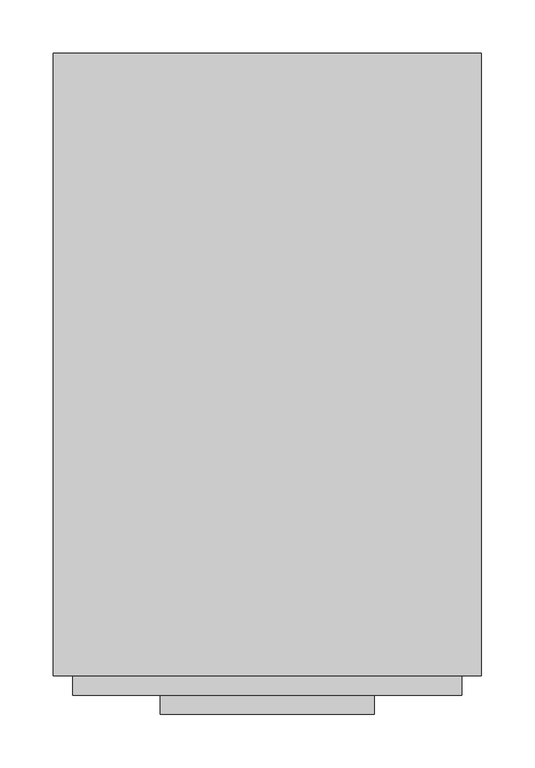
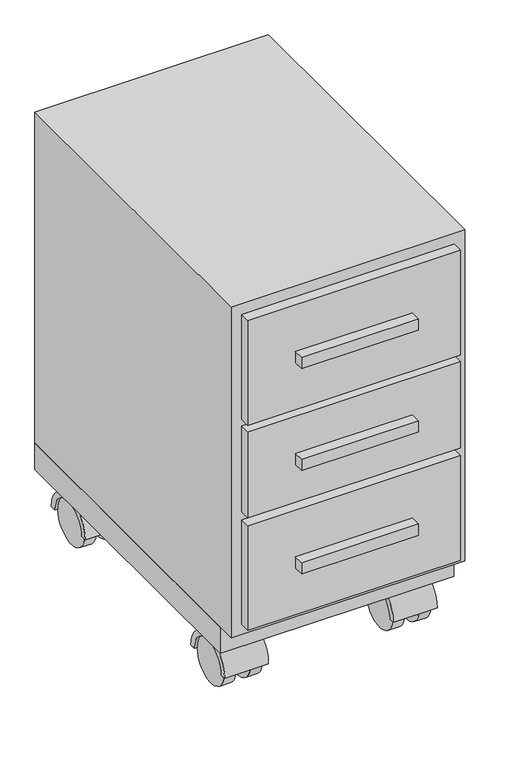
"""IFC4 building model written with IfcOpenShell, lengths in millimetres: proxy geometry, BIMHealth-400x600mm_Mobile_Under_Counter_Drawer-LOD2A-v1 : BIMHealth-400x600mm_Mobile_Under_Counter_Drawer-LOD2A-v1."""

import ifcopenshell
import ifcopenshell.guid

model = None  # the IFC model being written
_history = None  # IfcOwnerHistory: only IFC2X3 demands one
_inside = {}  # id of a spatial element -> (the spatial element, [elements in it])
_under = {}  # id of a project, library or spatial element -> (it, [spatial elements below it])
_declared = {}  # id of a project -> (the project, [libraries it declares])
_typed = {}  # id of a type object -> (the type object, [elements of that type])
_made_of = {}  # id of a material, layer set ... -> (it, [elements and type objects made of it])


def new_model(schema):
    """Start an empty IFC model of exactly this schema.

    Asked for "IFC4X3", IfcOpenShell would pick the latest addendum, in which some entities
    have other attributes; the version numbers below select the first issue.
    IFC2X3 requires an IfcOwnerHistory on every rooted entity: one is made here for all.
    """
    global model, _history
    if schema == "IFC4X3":
        model = ifcopenshell.file(schema_version=(4, 3, 0, 0))
    else:
        model = ifcopenshell.file(schema=schema)
    _inside.clear()
    _under.clear()
    _declared.clear()
    _typed.clear()
    _made_of.clear()
    _history = None
    if model.schema == "IFC2X3":
        org = make("IfcOrganization", Name="unknown")
        user = make(
            "IfcPersonAndOrganization",
            ThePerson=make("IfcPerson", FamilyName="unknown"),
            TheOrganization=org,
        )
        app = make(
            "IfcApplication",
            ApplicationDeveloper=org,
            Version="unknown",
            ApplicationFullName="unknown",
            ApplicationIdentifier="unknown",
        )
        _history = make(
            "IfcOwnerHistory",
            OwningUser=user,
            OwningApplication=app,
            ChangeAction="ADDED",
            CreationDate=0,
        )
    return model


def make(cls, **values):
    """One entity of the class cls with the attributes given. An attribute that is None is left unset."""
    return model.create_entity(
        cls, **{name: value for name, value in values.items() if value is not None}
    )


def rooted(cls, **values):
    """An entity with a GlobalId (a new one), such as an element, a storey or a relation."""
    return make(cls, GlobalId=ifcopenshell.guid.new(), OwnerHistory=_history, **values)


def si_unit(unit_type, name, prefix=None):
    """IfcSIUnit, for example si_unit("LENGTHUNIT", "METRE", prefix="MILLI")."""
    return make("IfcSIUnit", UnitType=unit_type, Prefix=prefix, Name=name)


def assignment(units):
    """IfcUnitAssignment: the units of a project."""
    return None if units is None else make("IfcUnitAssignment", Units=units)


def point(xyz):
    """IfcCartesianPoint."""
    return None if xyz is None else make("IfcCartesianPoint", Coordinates=xyz)


def direction(xyz):
    """IfcDirection."""
    return None if xyz is None else make("IfcDirection", DirectionRatios=xyz)


def frame(location, z_axis=None, x_axis=None):
    """IfcAxis2Placement3D, a coordinate frame: its origin and axes. An axis left out is left unset."""
    return make(
        "IfcAxis2Placement3D",
        Location=point(location),
        Axis=direction(z_axis),
        RefDirection=direction(x_axis),
    )


def frame_2d(location, x_axis=None):
    """IfcAxis2Placement2D, a coordinate frame in the plane: its origin and x axis."""
    return make(
        "IfcAxis2Placement2D", Location=point(location), RefDirection=direction(x_axis)
    )


def origin():
    """The frame at (0, 0, 0) with its axes left unset."""
    return frame((0.0, 0.0, 0.0))


def place(relative_to, where):
    """IfcLocalPlacement: puts the frame where relative to a parent placement (None: the world)."""
    return make(
        "IfcLocalPlacement", PlacementRelTo=relative_to, RelativePlacement=where
    )


def context(
    kind, dimensions, precision=None, world=None, true_north=None, identifier=None
):
    """IfcGeometricRepresentationContext, for example the 3D "Model" context."""
    return make(
        "IfcGeometricRepresentationContext",
        ContextIdentifier=identifier,
        ContextType=kind,
        CoordinateSpaceDimension=dimensions,
        Precision=precision,
        WorldCoordinateSystem=world,
        TrueNorth=true_north,
    )


def project(units=None, contexts=None):
    """IfcProject with its units and contexts."""
    return rooted(
        "IfcProject",
        Name="project",
        RepresentationContexts=contexts,
        UnitsInContext=assignment(units),
    )


def spatial(cls, under=None, at=None, **own):
    """A site, building, storey or space (cls), placed at a placement, below another one or the project."""
    s = rooted(cls, ObjectPlacement=at, **own)
    if under is not None:
        _under.setdefault(under.id(), (under, []))[1].append(s)
    return s


def polyline(points):
    """IfcPolyline through the points."""
    return make("IfcPolyline", Points=[point(p) for p in points])


def circle_curve(where, radius):
    """IfcCircle in the frame where."""
    return make("IfcCircle", Position=where, Radius=radius)


def trimmed(basis, trim1, trim2, sense, master):
    """IfcTrimmedCurve: the piece of a basis curve between two trims."""
    return make(
        "IfcTrimmedCurve",
        BasisCurve=basis,
        Trim1=trim1,
        Trim2=trim2,
        SenseAgreement=sense,
        MasterRepresentation=master,
    )


def segment(curve, same_sense, transition):
    """IfcCompositeCurveSegment."""
    return make(
        "IfcCompositeCurveSegment",
        Transition=transition,
        SameSense=same_sense,
        ParentCurve=curve,
    )


def composite_curve(segments, self_intersect=None):
    """IfcCompositeCurve: segments joined end to end."""
    return make("IfcCompositeCurve", Segments=segments, SelfIntersect=self_intersect)


def outline(outer, holes=None, kind="AREA"):
    """IfcArbitraryClosedProfileDef: a profile drawn as a closed curve; with holes, ...WithVoids."""
    if holes is None:
        return make("IfcArbitraryClosedProfileDef", ProfileType=kind, OuterCurve=outer)
    return make(
        "IfcArbitraryProfileDefWithVoids",
        ProfileType=kind,
        OuterCurve=outer,
        InnerCurves=holes,
    )


def extrude(swept, where, along, depth):
    """IfcExtrudedAreaSolid: the profile swept, set in the frame where, extruded along a direction by depth."""
    return make(
        "IfcExtrudedAreaSolid",
        SweptArea=swept,
        Position=where,
        ExtrudedDirection=direction(along),
        Depth=depth,
    )


def faces_of(points, faces, orient=None, outer=None):
    """IfcFace entities. A face is a list of loops; a loop is a list of indices into points, from 0.

    orient and outer hold one flag for each loop. By default every Orientation is true, the
    first loop of a face is its IfcFaceOuterBound and the others are IfcFaceBound.
    """
    made = []
    for i, loops in enumerate(faces):
        bounds = []
        for j, loop in enumerate(loops):
            is_outer = j == 0 if outer is None else outer[i][j]
            bounds.append(
                make(
                    "IfcFaceOuterBound" if is_outer else "IfcFaceBound",
                    Bound=make("IfcPolyLoop", Polygon=[points[k] for k in loop]),
                    Orientation=True if orient is None else orient[i][j],
                )
            )
        made.append(make("IfcFace", Bounds=bounds))
    return made


def faceted_brep(points, faces, orient=None, outer=None, voids=None):
    """IfcFacetedBrep: a solid bounded by flat faces; with voids (closed shells), ...WithVoids."""
    shared = [point(p) for p in points]
    hull = make("IfcClosedShell", CfsFaces=faces_of(shared, faces, orient, outer))
    if voids is None:
        return make("IfcFacetedBrep", Outer=hull)
    return make(
        "IfcFacetedBrepWithVoids",
        Outer=hull,
        Voids=[
            make(cls, CfsFaces=faces_of(shared, fs, o, b)) for cls, fs, o, b in voids
        ],
    )


def shape(context_of_items, identifier, shape_type, items):
    """IfcShapeRepresentation: the items that make up one representation, for example the "Body"."""
    return make(
        "IfcShapeRepresentation",
        ContextOfItems=context_of_items,
        RepresentationIdentifier=identifier,
        RepresentationType=shape_type,
        Items=items,
    )


def source(mapping_origin, context_of_items, identifier, shape_type, items):
    """IfcRepresentationMap: a shape defined once, which mapped items show again and again."""
    return make(
        "IfcRepresentationMap",
        MappingOrigin=mapping_origin,
        MappedRepresentation=shape(context_of_items, identifier, shape_type, items),
    )


def transform(
    local_origin,
    x_axis=None,
    y_axis=None,
    z_axis=None,
    scale=None,
    scale2=None,
    scale3=None,
    uniform=True,
):
    """IfcCartesianTransformationOperator3D, or its non-uniform kind. x_axis, y_axis, z_axis: its Axis1, 2, 3."""
    if uniform:
        return make(
            "IfcCartesianTransformationOperator3D",
            Axis1=direction(x_axis),
            Axis2=direction(y_axis),
            LocalOrigin=point(local_origin),
            Scale=scale,
            Axis3=direction(z_axis),
        )
    return make(
        "IfcCartesianTransformationOperator3DnonUniform",
        Axis1=direction(x_axis),
        Axis2=direction(y_axis),
        LocalOrigin=point(local_origin),
        Scale=scale,
        Axis3=direction(z_axis),
        Scale2=scale2,
        Scale3=scale3,
    )


def mapped(mapping_source, mapping_target):
    """IfcMappedItem: shows the shape of a source again, moved by a transform."""
    return make(
        "IfcMappedItem", MappingSource=mapping_source, MappingTarget=mapping_target
    )


def made_of(thing, what):
    """Note that an element or type object is made of a material, layer set ...; save() writes the relation."""
    if what is not None:
        _made_of.setdefault(what.id(), (what, []))[1].append(thing)
    return thing


def element(
    cls,
    number,
    at=None,
    inside=None,
    cuts=None,
    type_object=None,
    material=None,
    context=None,
    identifier="Body",
    shape_type=None,
    held_by="IfcProductDefinitionShape",
    body=None,
    shapes=None,
    **own,
):
    """One element of the class cls, such as IfcWall. Its Tag is "e" and its number.

    at: its placement. inside: the storey or other place that contains it. cuts: it is an
    opening in that element (IfcRelVoidsElement). A single representation is given by context,
    identifier, shape_type and body (its items); several are given by shapes. held_by: the class
    of the entity that holds the representations. save() writes the other relations.
    """
    e = rooted(cls, Tag="e%d" % number, ObjectPlacement=at, **own)
    if body is not None:
        shapes = [shape(context, identifier, shape_type, body)]
    if shapes is not None:
        e.Representation = make(held_by, Representations=shapes)
    if inside is not None:
        _inside.setdefault(inside.id(), (inside, []))[1].append(e)
    if cuts is not None:
        rooted(
            "IfcRelVoidsElement", RelatingBuildingElement=cuts, RelatedOpeningElement=e
        )
    if type_object is not None:
        _typed.setdefault(type_object.id(), (type_object, []))[1].append(e)
    return made_of(e, material)


def aggregate(whole, parts):
    """IfcRelAggregates: a whole, such as a stair, and the parts it consists of."""
    return rooted("IfcRelAggregates", RelatingObject=whole, RelatedObjects=parts)


def save(model, path):
    """Write the relations noted so far, then the file.

    IfcRelAggregates (storeys below a building ...), IfcRelContainedInSpatialStructure (elements
    in a storey), IfcRelDefinesByType, IfcRelAssociatesMaterial and IfcRelDeclares: one each for
    every whole, place, type object, material and project.
    """
    for whole, parts in _under.values():
        aggregate(whole, parts)
    for where, things in _inside.values():
        rooted(
            "IfcRelContainedInSpatialStructure",
            RelatedElements=things,
            RelatingStructure=where,
        )
    for kind, things in _typed.values():
        rooted("IfcRelDefinesByType", RelatedObjects=things, RelatingType=kind)
    for what, things in _made_of.values():
        rooted("IfcRelAssociatesMaterial", RelatedObjects=things, RelatingMaterial=what)
    for by, libraries in _declared.values():
        rooted("IfcRelDeclares", RelatingContext=by, RelatedDefinitions=libraries)
    model.write(path)


def generic_models_b4fb940c(model_context):
    return source(origin(), model_context, "Body", "SolidModel", [
        extrude(outline(composite_curve([segment(trimmed(circle_curve(frame_2d((344.2063616, -68.0)), 7.5), [point((336.7063616, -68.0))], [point((351.7063616, -68.0))], False, "CARTESIAN"), True, "CONTINUOUS"), segment(trimmed(circle_curve(frame_2d((344.2063616, -68.0)), 7.5), [point((351.7063616, -68.0))], [point((336.7063616, -68.0))], False, "CARTESIAN"), True, "CONTINUOUS")], self_intersect=False)), frame((0.0, 0.0, 62.2775188), z_axis=(0.0, 0.0, 1.0), x_axis=(1.0, 0.0, 0.0)), (0.0, 0.0, 1.0), 20.0),
        extrude(outline(composite_curve([segment(polyline([(-97.2564005, 62.2775188), (-38.7435995, 62.2775188), (-38.7435995, 40.5470471)]), True, "CONTINUOUS"), segment(trimmed(circle_curve(frame_2d((-68.0, 0.0)), 50.0), [point((-38.7435995, 40.5470471))], [point((-97.2564005, 40.5470471))], True, "CARTESIAN"), True, "CONTINUOUS"), segment(polyline([(-97.2564005, 40.5470471), (-97.2564005, 62.2775188)]), True, "CONTINUOUS")], self_intersect=False)), frame((321.5806979, 0.0, 0.0), z_axis=(1.0, 0.0, 0.0), x_axis=(0.0, 1.0, 0.0)), (0.0, 0.0, 1.0), 45.2513275),
        extrude(outline(composite_curve([segment(polyline([(-108.0, 0.0), (-118.0, 0.0)]), True, "CONTINUOUS"), segment(trimmed(circle_curve(frame_2d((-68.0, 0.0)), 50.0), [point((-118.0, 0.0))], [point((-18.0, 0.0))], False, "CARTESIAN"), True, "CONTINUOUS"), segment(polyline([(-18.0, 0.0), (-28.0, 0.0)]), True, "CONTINUOUS"), segment(trimmed(circle_curve(frame_2d((-68.0, 0.0)), 40.0), [point((-28.0, 0.0))], [point((-108.0, 0.0))], True, "CARTESIAN"), True, "CONTINUOUS")], self_intersect=False)), frame((307.0, 0.0, 0.0), z_axis=(1.0, 0.0, 0.0), x_axis=(0.0, 1.0, 0.0)), (0.0, 0.0, 1.0), 75.0),
        extrude(outline(composite_curve([segment(trimmed(circle_curve(frame_2d((-68.0, 0.0)), 40.0), [point((-28.0, 0.0))], [point((-108.0, 0.0))], False, "CARTESIAN"), True, "CONTINUOUS"), segment(trimmed(circle_curve(frame_2d((-68.0, 0.0)), 40.0), [point((-108.0, 0.0))], [point((-28.0, 0.0))], False, "CARTESIAN"), True, "CONTINUOUS")], self_intersect=False)), frame((357.0, 0.0, 0.0), z_axis=(1.0, 0.0, 0.0), x_axis=(0.0, 1.0, 0.0)), (0.0, 0.0, 1.0), 20.0),
        extrude(outline(composite_curve([segment(trimmed(circle_curve(frame_2d((-68.0, 0.0)), 40.0), [point((-28.0, 0.0))], [point((-108.0, 0.0))], False, "CARTESIAN"), True, "CONTINUOUS"), segment(trimmed(circle_curve(frame_2d((-68.0, 0.0)), 40.0), [point((-108.0, 0.0))], [point((-28.0, 0.0))], False, "CARTESIAN"), True, "CONTINUOUS")], self_intersect=False)), frame((312.0, 0.0, 0.0), z_axis=(1.0, 0.0, 0.0), x_axis=(0.0, 1.0, 0.0)), (0.0, 0.0, 1.0), 20.0),
        extrude(outline(composite_curve([segment(trimmed(circle_curve(frame_2d((55.2063616, -68.0)), 7.5), [point((47.7063616, -68.0))], [point((62.7063616, -68.0))], False, "CARTESIAN"), True, "CONTINUOUS"), segment(trimmed(circle_curve(frame_2d((55.2063616, -68.0)), 7.5), [point((62.7063616, -68.0))], [point((47.7063616, -68.0))], False, "CARTESIAN"), True, "CONTINUOUS")], self_intersect=False)), frame((0.0, 0.0, 62.2775188), z_axis=(0.0, 0.0, 1.0), x_axis=(1.0, 0.0, 0.0)), (0.0, 0.0, 1.0), 20.0),
        extrude(outline(composite_curve([segment(polyline([(-97.2564005, 62.2775188), (-38.7435995, 62.2775188), (-38.7435995, 40.5470471)]), True, "CONTINUOUS"), segment(trimmed(circle_curve(frame_2d((-68.0, 0.0)), 50.0), [point((-38.7435995, 40.5470471))], [point((-97.2564005, 40.5470471))], True, "CARTESIAN"), True, "CONTINUOUS"), segment(polyline([(-97.2564005, 40.5470471), (-97.2564005, 62.2775188)]), True, "CONTINUOUS")], self_intersect=False)), frame((32.5806979, 0.0, 0.0), z_axis=(1.0, 0.0, 0.0), x_axis=(0.0, 1.0, 0.0)), (0.0, 0.0, 1.0), 45.2513275),
        extrude(outline(composite_curve([segment(polyline([(-108.0, 0.0), (-118.0, 0.0)]), True, "CONTINUOUS"), segment(trimmed(circle_curve(frame_2d((-68.0, 0.0)), 50.0), [point((-118.0, 0.0))], [point((-18.0, 0.0))], False, "CARTESIAN"), True, "CONTINUOUS"), segment(polyline([(-18.0, 0.0), (-28.0, 0.0)]), True, "CONTINUOUS"), segment(trimmed(circle_curve(frame_2d((-68.0, 0.0)), 40.0), [point((-28.0, 0.0))], [point((-108.0, 0.0))], True, "CARTESIAN"), True, "CONTINUOUS")], self_intersect=False)), frame((18.0, 0.0, 0.0), z_axis=(1.0, 0.0, 0.0), x_axis=(0.0, 1.0, 0.0)), (0.0, 0.0, 1.0), 75.0),
        extrude(outline(composite_curve([segment(trimmed(circle_curve(frame_2d((-68.0, 0.0)), 40.0), [point((-28.0, 0.0))], [point((-108.0, 0.0))], False, "CARTESIAN"), True, "CONTINUOUS"), segment(trimmed(circle_curve(frame_2d((-68.0, 0.0)), 40.0), [point((-108.0, 0.0))], [point((-28.0, 0.0))], False, "CARTESIAN"), True, "CONTINUOUS")], self_intersect=False)), frame((68.0, 0.0, 0.0), z_axis=(1.0, 0.0, 0.0), x_axis=(0.0, 1.0, 0.0)), (0.0, 0.0, 1.0), 20.0),
        extrude(outline(composite_curve([segment(trimmed(circle_curve(frame_2d((-68.0, 0.0)), 40.0), [point((-28.0, 0.0))], [point((-108.0, 0.0))], False, "CARTESIAN"), True, "CONTINUOUS"), segment(trimmed(circle_curve(frame_2d((-68.0, 0.0)), 40.0), [point((-108.0, 0.0))], [point((-28.0, 0.0))], False, "CARTESIAN"), True, "CONTINUOUS")], self_intersect=False)), frame((23.0, 0.0, 0.0), z_axis=(1.0, 0.0, 0.0), x_axis=(0.0, 1.0, 0.0)), (0.0, 0.0, 1.0), 20.0),
        extrude(outline(composite_curve([segment(trimmed(circle_curve(frame_2d((344.2063616, -482.0)), 7.5), [point((336.7063616, -482.0))], [point((351.7063616, -482.0))], False, "CARTESIAN"), True, "CONTINUOUS"), segment(trimmed(circle_curve(frame_2d((344.2063616, -482.0)), 7.5), [point((351.7063616, -482.0))], [point((336.7063616, -482.0))], False, "CARTESIAN"), True, "CONTINUOUS")], self_intersect=False)), frame((0.0, 0.0, 62.2775188), z_axis=(0.0, 0.0, 1.0), x_axis=(1.0, 0.0, 0.0)), (0.0, 0.0, 1.0), 20.0),
        extrude(outline(composite_curve([segment(polyline([(-511.2564005, 62.2775188), (-452.7435995, 62.2775188), (-452.7435995, 40.5470471)]), True, "CONTINUOUS"), segment(trimmed(circle_curve(frame_2d((-482.0, 0.0)), 50.0), [point((-452.7435995, 40.5470471))], [point((-511.2564005, 40.5470471))], True, "CARTESIAN"), True, "CONTINUOUS"), segment(polyline([(-511.2564005, 40.5470471), (-511.2564005, 62.2775188)]), True, "CONTINUOUS")], self_intersect=False)), frame((321.5806979, 0.0, 0.0), z_axis=(1.0, 0.0, 0.0), x_axis=(0.0, 1.0, 0.0)), (0.0, 0.0, 1.0), 45.2513275),
        extrude(outline(composite_curve([segment(polyline([(-522.0, 0.0), (-532.0, 0.0)]), True, "CONTINUOUS"), segment(trimmed(circle_curve(frame_2d((-482.0, 0.0)), 50.0), [point((-532.0, 0.0))], [point((-432.0, 0.0))], False, "CARTESIAN"), True, "CONTINUOUS"), segment(polyline([(-432.0, 0.0), (-442.0, 0.0)]), True, "CONTINUOUS"), segment(trimmed(circle_curve(frame_2d((-482.0, 0.0)), 40.0), [point((-442.0, 0.0))], [point((-522.0, 0.0))], True, "CARTESIAN"), True, "CONTINUOUS")], self_intersect=False)), frame((307.0, 0.0, 0.0), z_axis=(1.0, 0.0, 0.0), x_axis=(0.0, 1.0, 0.0)), (0.0, 0.0, 1.0), 75.0),
        extrude(outline(composite_curve([segment(trimmed(circle_curve(frame_2d((-482.0, 0.0)), 40.0), [point((-442.0, 0.0))], [point((-522.0, 0.0))], False, "CARTESIAN"), True, "CONTINUOUS"), segment(trimmed(circle_curve(frame_2d((-482.0, 0.0)), 40.0), [point((-522.0, 0.0))], [point((-442.0, 0.0))], False, "CARTESIAN"), True, "CONTINUOUS")], self_intersect=False)), frame((357.0, 0.0, 0.0), z_axis=(1.0, 0.0, 0.0), x_axis=(0.0, 1.0, 0.0)), (0.0, 0.0, 1.0), 20.0),
        extrude(outline(composite_curve([segment(trimmed(circle_curve(frame_2d((-482.0, 0.0)), 40.0), [point((-442.0, 0.0))], [point((-522.0, 0.0))], False, "CARTESIAN"), True, "CONTINUOUS"), segment(trimmed(circle_curve(frame_2d((-482.0, 0.0)), 40.0), [point((-522.0, 0.0))], [point((-442.0, 0.0))], False, "CARTESIAN"), True, "CONTINUOUS")], self_intersect=False)), frame((312.0, 0.0, 0.0), z_axis=(1.0, 0.0, 0.0), x_axis=(0.0, 1.0, 0.0)), (0.0, 0.0, 1.0), 20.0),
        extrude(outline(composite_curve([segment(trimmed(circle_curve(frame_2d((55.2063616, -482.0)), 7.5), [point((47.7063616, -482.0))], [point((62.7063616, -482.0))], False, "CARTESIAN"), True, "CONTINUOUS"), segment(trimmed(circle_curve(frame_2d((55.2063616, -482.0)), 7.5), [point((62.7063616, -482.0))], [point((47.7063616, -482.0))], False, "CARTESIAN"), True, "CONTINUOUS")], self_intersect=False)), frame((0.0, 0.0, 62.2775188), z_axis=(0.0, 0.0, 1.0), x_axis=(1.0, 0.0, 0.0)), (0.0, 0.0, 1.0), 20.0),
        extrude(outline(composite_curve([segment(polyline([(-511.2564005, 62.2775188), (-452.7435995, 62.2775188), (-452.7435995, 40.5470471)]), True, "CONTINUOUS"), segment(trimmed(circle_curve(frame_2d((-482.0, 0.0)), 50.0), [point((-452.7435995, 40.5470471))], [point((-511.2564005, 40.5470471))], True, "CARTESIAN"), True, "CONTINUOUS"), segment(polyline([(-511.2564005, 40.5470471), (-511.2564005, 62.2775188)]), True, "CONTINUOUS")], self_intersect=False)), frame((32.5806979, 0.0, 0.0), z_axis=(1.0, 0.0, 0.0), x_axis=(0.0, 1.0, 0.0)), (0.0, 0.0, 1.0), 45.2513275),
        extrude(outline(composite_curve([segment(polyline([(-522.0, 0.0), (-532.0, 0.0)]), True, "CONTINUOUS"), segment(trimmed(circle_curve(frame_2d((-482.0, 0.0)), 50.0), [point((-532.0, 0.0))], [point((-432.0, 0.0))], False, "CARTESIAN"), True, "CONTINUOUS"), segment(polyline([(-432.0, 0.0), (-442.0, 0.0)]), True, "CONTINUOUS"), segment(trimmed(circle_curve(frame_2d((-482.0, 0.0)), 40.0), [point((-442.0, 0.0))], [point((-522.0, 0.0))], True, "CARTESIAN"), True, "CONTINUOUS")], self_intersect=False)), frame((18.0, 0.0, 0.0), z_axis=(1.0, 0.0, 0.0), x_axis=(0.0, 1.0, 0.0)), (0.0, 0.0, 1.0), 75.0),
        extrude(outline(composite_curve([segment(trimmed(circle_curve(frame_2d((-482.0, 0.0)), 40.0), [point((-442.0, 0.0))], [point((-522.0, 0.0))], False, "CARTESIAN"), True, "CONTINUOUS"), segment(trimmed(circle_curve(frame_2d((-482.0, 0.0)), 40.0), [point((-522.0, 0.0))], [point((-442.0, 0.0))], False, "CARTESIAN"), True, "CONTINUOUS")], self_intersect=False)), frame((68.0, 0.0, 0.0), z_axis=(1.0, 0.0, 0.0), x_axis=(0.0, 1.0, 0.0)), (0.0, 0.0, 1.0), 20.0),
        extrude(outline(composite_curve([segment(trimmed(circle_curve(frame_2d((-482.0, 0.0)), 40.0), [point((-442.0, 0.0))], [point((-522.0, 0.0))], False, "CARTESIAN"), True, "CONTINUOUS"), segment(trimmed(circle_curve(frame_2d((-482.0, 0.0)), 40.0), [point((-522.0, 0.0))], [point((-442.0, 0.0))], False, "CARTESIAN"), True, "CONTINUOUS")], self_intersect=False)), frame((23.0, 0.0, 0.0), z_axis=(1.0, 0.0, 0.0), x_axis=(0.0, 1.0, 0.0)), (0.0, 0.0, 1.0), 20.0),
        extrude(outline(polyline([(300.0, -618.0), (100.0, -618.0), (100.0, -600.0), (300.0, -600.0), (300.0, -618.0)])), frame((0.0, 0.0, 400.0), z_axis=(0.0, 0.0, 1.0), x_axis=(1.0, 0.0, 0.0)), (0.0, 0.0, 1.0), 20.0),
        extrude(outline(polyline([(382.0, -582.0), (382.0, -600.0), (18.0, -600.0), (18.0, -582.0), (382.0, -582.0)])), frame((0.0, 0.0, 331.9260354), z_axis=(0.0, 0.0, 1.0), x_axis=(1.0, 0.0, 0.0)), (0.0, 0.0, 1.0), 156.0739646),
        extrude(outline(polyline([(300.0, -618.0), (100.0, -618.0), (100.0, -600.0), (300.0, -600.0), (300.0, -618.0)])), frame((0.0, 0.0, 213.0), z_axis=(0.0, 0.0, 1.0), x_axis=(1.0, 0.0, 0.0)), (0.0, 0.0, 1.0), 20.0),
        extrude(outline(polyline([(382.0, -582.0), (382.0, -600.0), (18.0, -600.0), (18.0, -582.0), (382.0, -582.0)])), frame((0.0, 0.0, 128.0), z_axis=(0.0, 0.0, 1.0), x_axis=(1.0, 0.0, 0.0)), (0.0, 0.0, 1.0), 190.0),
        extrude(outline(polyline([(300.0, -618.0), (100.0, -618.0), (100.0, -600.0), (300.0, -600.0), (300.0, -618.0)])), frame((0.0, 0.0, 585.0), z_axis=(0.0, 0.0, 1.0), x_axis=(1.0, 0.0, 0.0)), (0.0, 0.0, 1.0), 20.0),
        extrude(outline(polyline([(382.0, -582.0), (382.0, -600.0), (18.0, -600.0), (18.0, -582.0), (382.0, -582.0)])), frame((0.0, 0.0, 500.0), z_axis=(0.0, 0.0, 1.0), x_axis=(1.0, 0.0, 0.0)), (0.0, 0.0, 1.0), 190.0),
        extrude(outline(polyline([(400.0, 0.0), (400.0, -550.0), (0.0, -550.0), (0.0, 0.0), (400.0, 0.0)]), holes=[polyline([(382.0, -18.0), (18.0, -18.0), (18.0, -532.0), (382.0, -532.0), (382.0, -18.0)])]), frame((0.0, 0.0, 62.2775188), z_axis=(0.0, 0.0, 1.0), x_axis=(1.0, 0.0, 0.0)), (0.0, 0.0, 1.0), 47.7224812),
        faceted_brep([(18.0, -564.0, 690.0), (18.0, -18.0, 690.0), (382.0, -18.0, 690.0), (382.0, -564.0, 690.0), (400.0, 0.0, 710.0), (0.0, 0.0, 710.0), (0.0, -582.0, 710.0), (400.0, -582.0, 710.0), (400.0, 0.0, 110.0), (0.0, 0.0, 110.0), (0.0, -582.0, 110.0), (400.0, -582.0, 110.0), (18.0, -564.0, 110.0), (382.0, -564.0, 110.0), (382.0, -18.0, 110.0), (18.0, -18.0, 110.0)], [[[0, 1, 2, 3]], [[4, 5, 6, 7]], [[5, 4, 8, 9]], [[6, 5, 9, 10]], [[7, 6, 10, 11]], [[8, 4, 7, 11]], [[11, 10, 9, 8], [12, 13, 14, 15]], [[12, 15, 1, 0]], [[15, 14, 2, 1]], [[14, 13, 3, 2]], [[13, 12, 0, 3]]]),
    ])


if __name__ == "__main__":
    model = new_model("IFC4")
    model_context = context("Model", 3, world=origin())
    ifc_project = project(units=[si_unit("LENGTHUNIT", "METRE", prefix="MILLI")], contexts=[model_context])
    site = spatial("IfcSite", under=ifc_project)
    building = spatial("IfcBuilding", under=site)
    placement = place(None, origin())
    generic_models_shape = generic_models_b4fb940c(model_context)
    element("IfcBuildingElementProxy", 1, Name="BIMHealth-400x600mm_Mobile_Under_Counter_Drawer-LOD2A-v1 : BIMHealth-400x600mm_Mobile_Under_Counter_Drawer-LOD2A-v1", ObjectType="BIMHealth-400x600mm_Mobile_Under_Counter_Drawer-LOD2A-v1 : BIMHealth-400x600mm_Mobile_Under_Counter_Drawer-LOD2A-v1", at=placement, inside=building, context=model_context, shape_type="MappedRepresentation", body=[
        mapped(generic_models_shape, transform((0.0, 0.0, 0.0), x_axis=(1.0, 0.0, 0.0), y_axis=(0.0, 1.0, 0.0), z_axis=(0.0, 0.0, 1.0))),
    ])
    save(model, "model.ifc")
